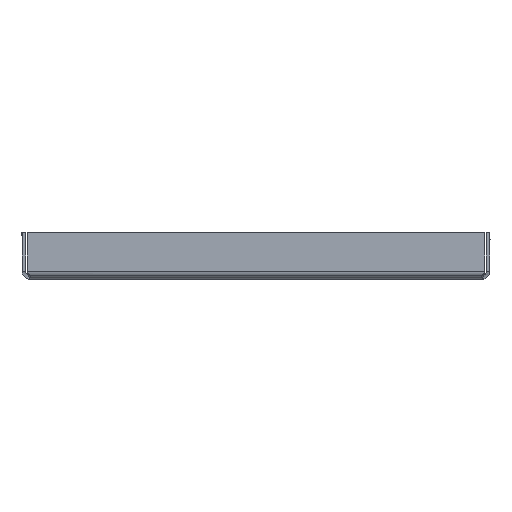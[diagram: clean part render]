
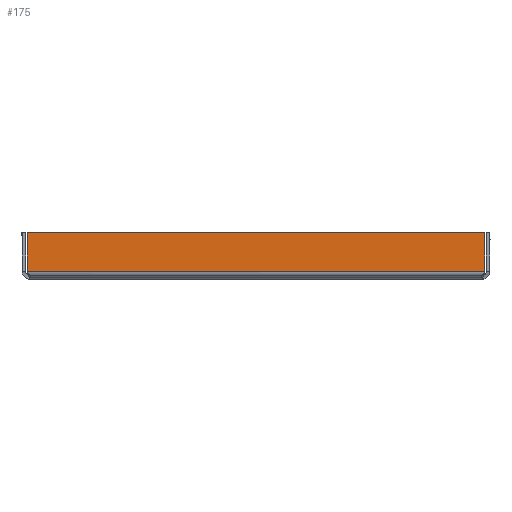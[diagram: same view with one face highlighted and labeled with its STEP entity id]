
A CAD part, front view. The second image highlights one B-rep face of the part: STEP entity #175.
In plain terms, the highlighted planar face has unit normal (0, -1, 0).
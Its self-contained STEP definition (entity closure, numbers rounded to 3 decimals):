
#175=ADVANCED_FACE('',(#3305),#3307,.F.);
#3305=FACE_BOUND('',#3306,.T.);
#3306=EDGE_LOOP('',(#10373,#10374,#10375,#10376));
#3307=PLANE('',#3308);
#3308=AXIS2_PLACEMENT_3D('',#3309,#3310,#3311);
#3309=CARTESIAN_POINT('',(0.,-548.5,0.));
#3310=DIRECTION('',(0.,1.,0.));
#3311=DIRECTION('',(0.,0.,1.));
#10373=ORIENTED_EDGE('',*,*,#14999,.F.);
#10374=ORIENTED_EDGE('',*,*,#15004,.T.);
#10375=ORIENTED_EDGE('',*,*,#15005,.F.);
#10376=ORIENTED_EDGE('',*,*,#15003,.F.);
#14999=EDGE_CURVE('',#19100,#19093,#19103,.T.);
#15003=EDGE_CURVE('',#19093,#19106,#19109,.T.);
#15004=EDGE_CURVE('',#19100,#19110,#19111,.T.);
#15005=EDGE_CURVE('',#19106,#19110,#19112,.T.);
#19093=VERTEX_POINT('',#27633);
#19100=VERTEX_POINT('',#27842);
#19103=LINE('',#27947,#27948);
#19106=VERTEX_POINT('',#27954);
#19109=LINE('',#27961,#27962);
#19110=VERTEX_POINT('',#27964);
#19111=LINE('',#27965,#27966);
#19112=LINE('',#27968,#27969);
#27633=CARTESIAN_POINT('',(-93.793,-548.5,1.8));
#27842=CARTESIAN_POINT('',(93.793,-548.5,1.8));
#27947=CARTESIAN_POINT('',(93.793,-548.5,1.8));
#27948=VECTOR('',#27949,1.);
#27949=DIRECTION('',(-1.,0.,0.));
#27954=CARTESIAN_POINT('',(-93.793,-548.5,17.5));
#27961=CARTESIAN_POINT('',(-93.793,-548.5,1.8));
#27962=VECTOR('',#27963,1.);
#27963=DIRECTION('',(0.,0.,1.));
#27964=CARTESIAN_POINT('',(93.793,-548.5,17.5));
#27965=CARTESIAN_POINT('',(93.793,-548.5,1.8));
#27966=VECTOR('',#27967,1.);
#27967=DIRECTION('',(0.,0.,1.));
#27968=CARTESIAN_POINT('',(-93.793,-548.5,17.5));
#27969=VECTOR('',#27970,1.);
#27970=DIRECTION('',(1.,0.,0.));
